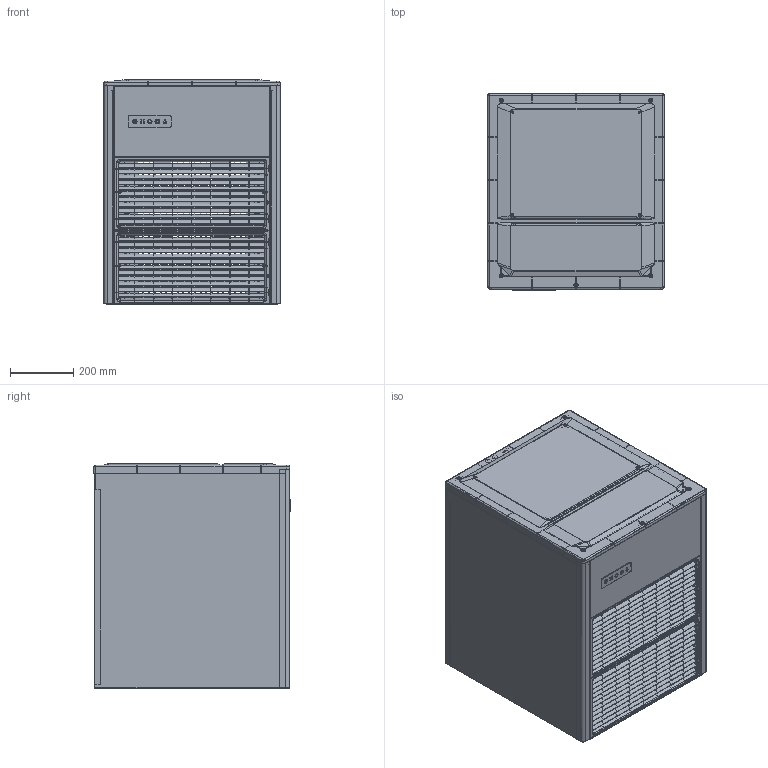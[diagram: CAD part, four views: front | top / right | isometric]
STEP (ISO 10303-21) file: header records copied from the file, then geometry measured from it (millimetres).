
FILE_DESCRIPTION(/* description */ ('Unknown'),/* implementation_level */ '2;1');
FILE_NAME(/* name */ 'IQN-600',/* time_stamp */ '2018-04-24T07:51:40+02:00',/* author */ ('Unknown'),/* organization */ ('Unknown'),/* preprocessor_version */ 'ST-DEVELOPER v16.7',/* originating_system */ 'DEX',/* authorisation */ $);
FILE_SCHEMA (('CONFIG_CONTROL_DESIGN'));
Products named in the file (18): NIQ_500Kg_V1; PLANTEAMIENTO U-C 22P=620-ene-V5_oa_0; 49-18_V11; 49-71_V8_oa_1; 49_72_V1_oa_2; 49-72_2_V1; 49-17+Carroceria_V07_oa_3; 49-19_Pilar_derecho_V10; 49-19_Pilar_izquierdo_V10; 49-20+pilar trasero izquierdo V06; 49-20+Pilar trasero dercho V06; 49-26+Fijo superior=620-V9; 49-22+lateral der V8; 49-22+lateral izq V8; 49-23+trasera_V02; 49-46+refuerzo soporte trasero_V04; 28-228+30423; 35-73
Assembly tree (18 placements, depth 4):
  NIQ_500Kg_V1
    PLANTEAMIENTO U-C 22P=620-ene-V5_oa_0
      49-18_V11
    49-71_V8_oa_1
      49_72_V1_oa_2
        49-72_2_V1
    49-17+Carroceria_V07_oa_3
      49-19_Pilar_derecho_V10
      49-19_Pilar_izquierdo_V10
      49-20+pilar trasero izquierdo V06
      49-20+Pilar trasero dercho V06
      49-26+Fijo superior=620-V9
      49-22+lateral der V8
      49-22+lateral izq V8
      49-23+trasera_V02
      49-46+refuerzo soporte trasero_V04
      28-228+30423
    35-73  x2
Bounding box: 558.8 x 622.03 x 710.9 mm (x, y, z)
Volume: 3980025.4 mm3; surface area: 5711197.5 mm2
Topology: 14 solids, 14 shells, 6694 faces, 19817 edges, 12967 vertices
Faces by surface type: plane 4425, cylinder 1341, bspline 755, torus 89, cone 68, sphere 16
Full cylindrical faces by diameter (mm): 2.7 x21, 3.5 x24, 4 x1, 4.2 x16, 4.25 x16, 4.5 x4, 5 x23, 6 x7, 6.25 x8, 8 x5, 8.519 x1, 16 x2, 20 x2, 30 x1
Entity records: 188347 total; most frequent: CARTESIAN_POINT 48250, ORIENTED_EDGE 30418, DIRECTION 25870, EDGE_CURVE 15209, LINE 11132, VECTOR 11132, VERTEX_POINT 10066, AXIS2_PLACEMENT_3D 7369
